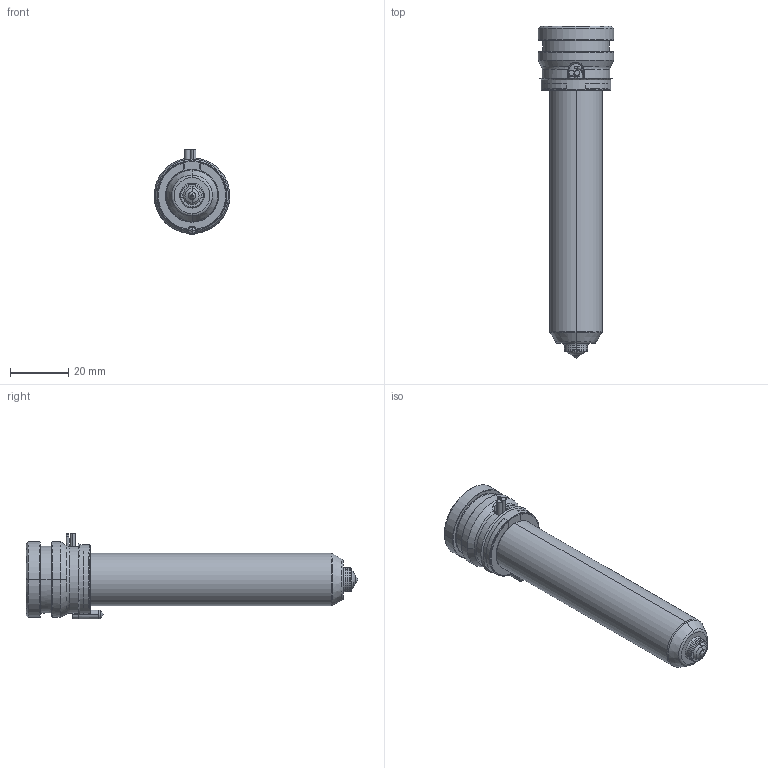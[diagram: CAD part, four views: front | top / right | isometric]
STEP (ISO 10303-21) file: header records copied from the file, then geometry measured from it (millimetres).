
FILE_DESCRIPTION((''),'2;1');
FILE_NAME('TH18096-A-1GLT-PK-JG','2023-12-14T',('umhib'),('Thermoplay S.p.A.'),'PRO/ENGINEER BY PARAMETRIC TECHNOLOGY CORPORATION, 2017170','PRO/ENGINEER BY PARAMETRIC TECHNOLOGY CORPORATION, 2017170','');
FILE_SCHEMA(('CONFIG_CONTROL_DESIGN'));
Length unit declared in the file: millimetre
Products named in the file (1): TH18096-A-1GLT-PK-JG
Bounding box: 26 x 114 x 29.5 mm (x, y, z)
Volume: 24098.3 mm3; surface area: 17762.3 mm2
Topology: 1 solids, 2 shells, 418 faces, 1085 edges, 675 vertices
Faces by surface type: cylinder 162, plane 90, cone 68, torus 62, bspline 24, sphere 10, extrusion 2
Entity records: 18145 total; most frequent: CARTESIAN_POINT 5862, DIRECTION 2189, ORIENTED_EDGE 2146, EDGE_CURVE 1075, AXIS2_PLACEMENT_3D 887, VERTEX_POINT 675, CIRCLE 494, EDGE_LOOP 443
